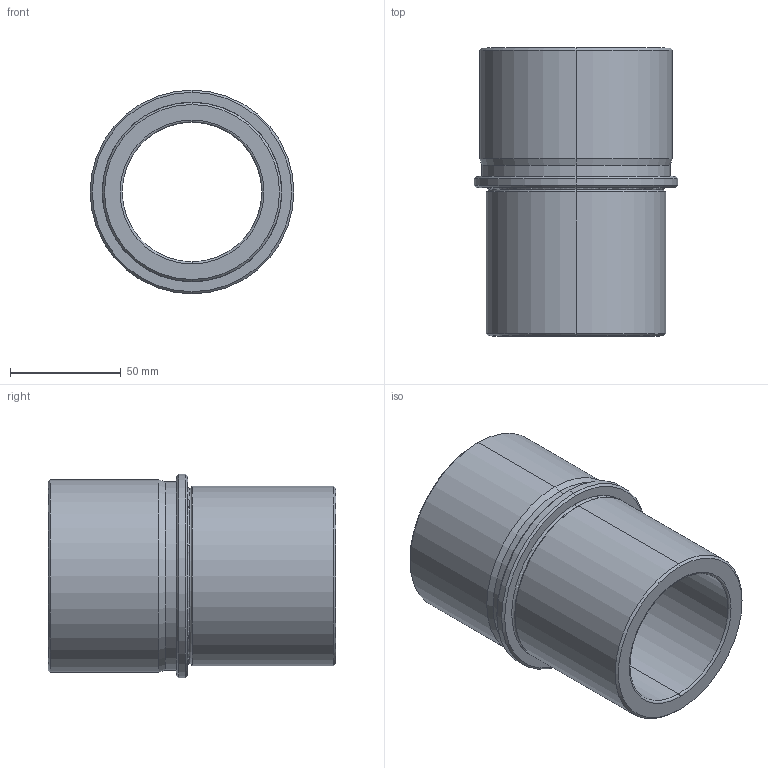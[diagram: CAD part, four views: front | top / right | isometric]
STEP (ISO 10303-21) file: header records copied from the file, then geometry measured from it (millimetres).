
FILE_DESCRIPTION(('CATIA V5 STEP Exchange'),'2;1');
FILE_NAME('C:\Users\Utente\Desktop\IO LAVORO\3D X SITO CF\X SITO\CF 450\CF 450 63x130.stp','2020-12-27T17:49:56+00:00',('none'),('none'),'CATIA Version 5 Release 20 GA (IN-10)','CATIA V5 STEP AP203','none');
FILE_SCHEMA(('CONFIG_CONTROL_DESIGN'));
Length unit declared in the file: millimetre
Products named in the file (1): CF 450 63x130
Bounding box: 92 x 130 x 92 mm (x, y, z)
Volume: 315250.8 mm3; surface area: 66866.5 mm2
Topology: 1 solids, 1 shells, 32 faces, 98 edges, 70 vertices
Faces by surface type: cone 10, cylinder 10, torus 8, plane 4
Entity records: 1188 total; most frequent: CARTESIAN_POINT 257, ORIENTED_EDGE 196, DIRECTION 158, AXIS2_PLACEMENT_3D 107, EDGE_CURVE 98, CIRCLE 74, VERTEX_POINT 70, EDGE_LOOP 36
